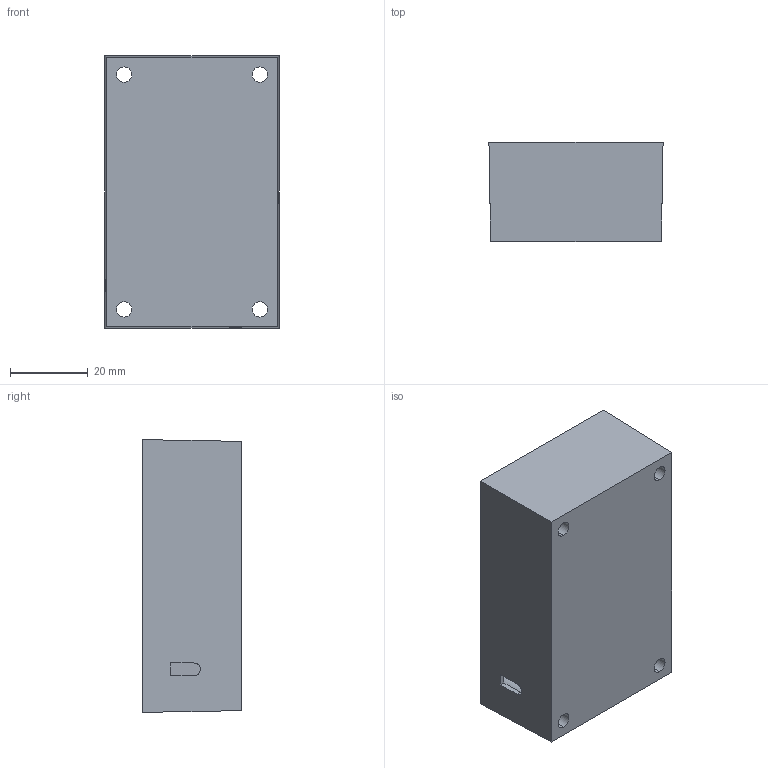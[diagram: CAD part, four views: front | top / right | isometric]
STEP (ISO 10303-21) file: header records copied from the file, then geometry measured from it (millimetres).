
FILE_DESCRIPTION (( 'STEP AP203' ), '1' );
FILE_NAME ('90294.STEP', '2014-03-10T19:45:05', ( 'Vulcan' ), ( 'Hewlett-Packard Company' ), 'SwSTEP 2.0', 'SolidWorks 2013', '' );
FILE_SCHEMA (( 'CONFIG_CONTROL_DESIGN' ));
Length unit declared in the file: inch
Products named in the file (1): 90294
Bounding box: 44.75 x 25.4 x 70.1 mm (x, y, z)
Volume: 17265.3 mm3; surface area: 27173.1 mm2
Topology: 1 solids, 1 shells, 307 faces, 840 edges, 560 vertices
Faces by surface type: plane 180, bspline 108, cylinder 19
Entity records: 15389 total; most frequent: CARTESIAN_POINT 8238, ORIENTED_EDGE 1680, DIRECTION 1042, EDGE_CURVE 840, LINE 570, VECTOR 570, VERTEX_POINT 560, EDGE_LOOP 352
